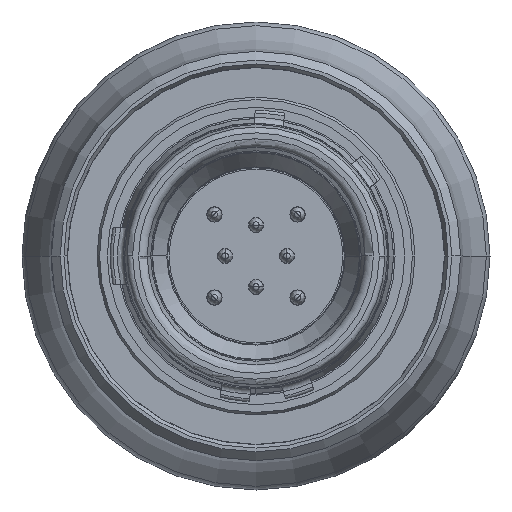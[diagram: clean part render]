
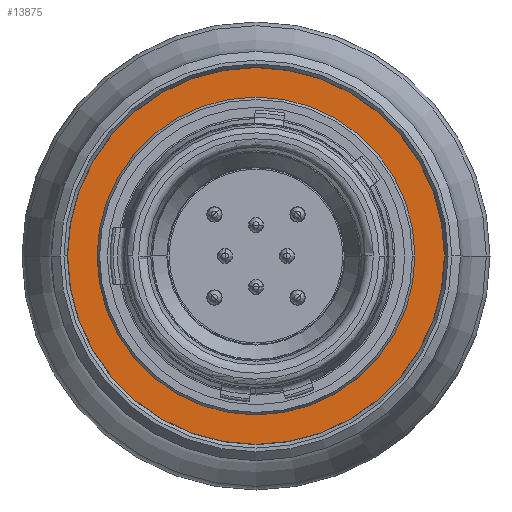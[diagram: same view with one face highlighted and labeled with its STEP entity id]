
A CAD part, left-side view. The second image highlights one B-rep face of the part: STEP entity #13875.
In plain terms, the highlighted planar face has unit normal (-1, 0, 0).
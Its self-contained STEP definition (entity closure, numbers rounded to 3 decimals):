
#1477=CARTESIAN_POINT('',(10.81,0.,0.));
#1478=DIRECTION('',(1.,0.,0.));
#1479=DIRECTION('',(0.,1.,0.));
#1480=AXIS2_PLACEMENT_3D('',#1477,#1478,#1479);
#1482=CARTESIAN_POINT('',(10.81,0.,0.));
#1483=DIRECTION('',(1.,0.,0.));
#1484=DIRECTION('',(0.,-1.,0.));
#1485=AXIS2_PLACEMENT_3D('',#1482,#1483,#1484);
#1487=CARTESIAN_POINT('',(10.81,0.,0.));
#1488=DIRECTION('',(-1.,0.,0.));
#1489=DIRECTION('',(0.,1.,0.));
#1490=AXIS2_PLACEMENT_3D('',#1487,#1488,#1489);
#1492=CARTESIAN_POINT('',(10.81,0.,0.));
#1493=DIRECTION('',(-1.,0.,0.));
#1494=DIRECTION('',(0.,-1.,0.));
#1495=AXIS2_PLACEMENT_3D('',#1492,#1493,#1494);
#9827=CARTESIAN_POINT('',(10.81,5.4,0.));
#9828=VERTEX_POINT('',#9827);
#9829=CARTESIAN_POINT('',(10.81,-5.4,0.));
#9830=VERTEX_POINT('',#9829);
#9833=CARTESIAN_POINT('',(10.81,6.4,0.));
#9834=CARTESIAN_POINT('',(10.81,-6.4,0.));
#9835=VERTEX_POINT('',#9833);
#9836=VERTEX_POINT('',#9834);
#13860=CARTESIAN_POINT('',(10.81,0.,0.));
#13861=DIRECTION('',(1.,0.,0.));
#13862=DIRECTION('',(0.,-1.,0.));
#13863=AXIS2_PLACEMENT_3D('',#13860,#13861,#13862);
#13864=PLANE('',#13863);
#13866=ORIENTED_EDGE('',*,*,#13865,.T.);
#13868=ORIENTED_EDGE('',*,*,#13867,.T.);
#13869=EDGE_LOOP('',(#13866,#13868));
#13870=FACE_OUTER_BOUND('',#13869,.F.);
#13871=ORIENTED_EDGE('',*,*,#13826,.T.);
#13872=ORIENTED_EDGE('',*,*,#13802,.T.);
#13873=EDGE_LOOP('',(#13871,#13872));
#13874=FACE_BOUND('',#13873,.F.);
#1481=CIRCLE('',#1480,6.4);
#1486=CIRCLE('',#1485,6.4);
#1491=CIRCLE('',#1490,5.4);
#1496=CIRCLE('',#1495,5.4);
#13802=EDGE_CURVE('',#9830,#9828,#1496,.T.);
#13826=EDGE_CURVE('',#9828,#9830,#1491,.T.);
#13865=EDGE_CURVE('',#9835,#9836,#1481,.T.);
#13867=EDGE_CURVE('',#9836,#9835,#1486,.T.);
#13875=ADVANCED_FACE('',(#13870,#13874),#13864,.F.);
